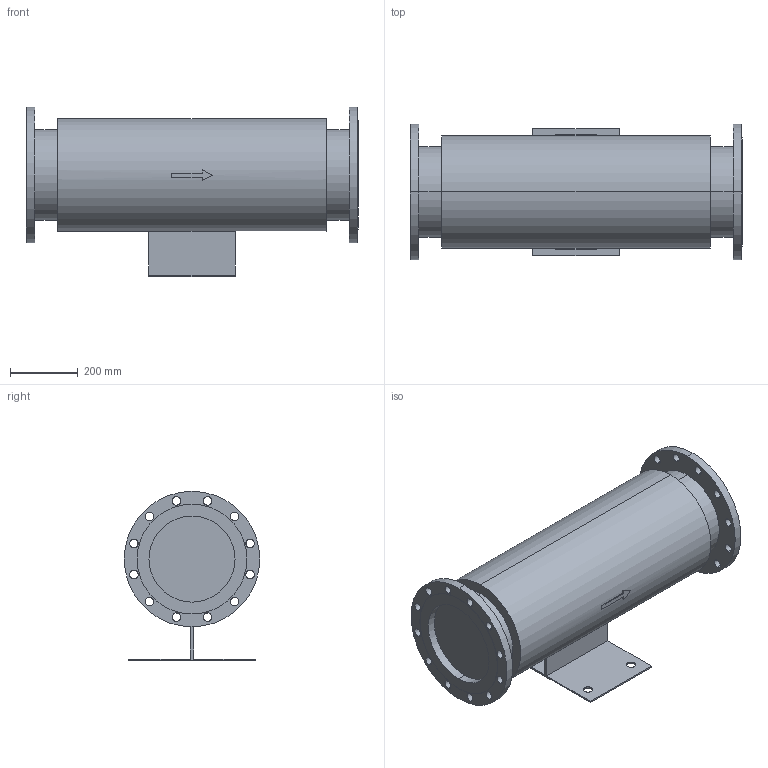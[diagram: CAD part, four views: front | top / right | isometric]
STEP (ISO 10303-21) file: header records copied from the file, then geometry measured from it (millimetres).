
FILE_DESCRIPTION( (''), '2;1');
FILE_NAME ('PC1027.12084.EB-2J　250A_4652.stp','2025-07-29T14:27:34',(''),(''),'spGate 20.6.3 (****-****-****-****)','','');
FILE_SCHEMA (('AUTOMOTIVE_DESIGN'));
Length unit declared in the file: millimetre
Bounding box: 980 x 400 x 500 mm (x, y, z)
Volume: 80697426.6 mm3; surface area: 1779334.7 mm2
Topology: 1 solids, 1 shells, 109 faces, 290 edges, 194 vertices
Faces by surface type: cylinder 74, plane 35
Entity records: 5777 total; most frequent: CARTESIAN_POINT 675, DIRECTION 588, ORIENTED_EDGE 580, COLOUR_RGB 400, PRESENTATION_STYLE_ASSIGNMENT 400, STYLED_ITEM 400, EDGE_CURVE 290, DRAUGHTING_PRE_DEFINED_CURVE_FONT 290
